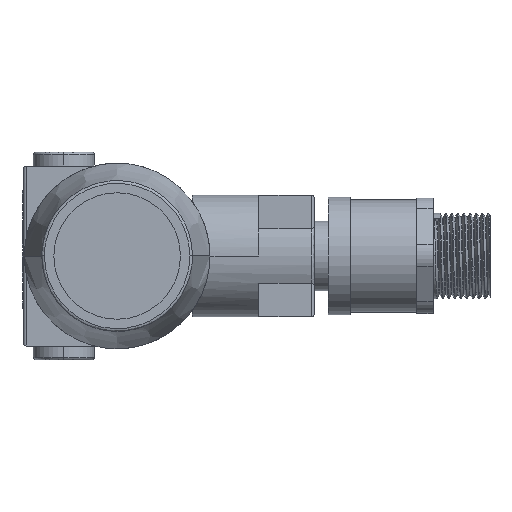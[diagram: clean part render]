
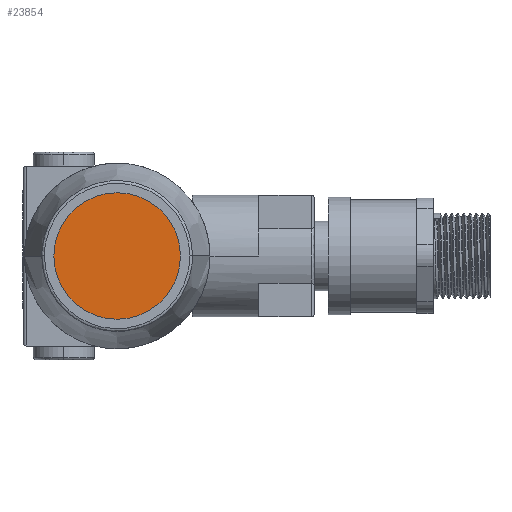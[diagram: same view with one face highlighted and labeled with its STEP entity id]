
A CAD part, left-side view. The second image highlights one B-rep face of the part: STEP entity #23854.
In plain terms, the highlighted planar face has unit normal (-1, 0, 0).
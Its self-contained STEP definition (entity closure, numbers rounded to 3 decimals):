
#8640=CARTESIAN_POINT('',(-69.5,71.141,0.));
#8641=DIRECTION('',(-1.,0.,0.));
#8642=DIRECTION('',(0.,-1.,0.));
#8643=AXIS2_PLACEMENT_3D('',#8640,#8641,#8642);
#8645=CARTESIAN_POINT('',(-69.5,71.141,0.));
#8646=DIRECTION('',(-1.,0.,0.));
#8647=DIRECTION('',(0.,1.,0.));
#8648=AXIS2_PLACEMENT_3D('',#8645,#8646,#8647);
#8895=CARTESIAN_POINT('',(-69.5,48.295,0.));
#8896=CARTESIAN_POINT('',(-69.5,93.987,0.));
#8897=VERTEX_POINT('',#8895);
#8898=VERTEX_POINT('',#8896);
#23845=CARTESIAN_POINT('',(-69.5,0.,0.));
#23846=DIRECTION('',(-1.,0.,0.));
#23847=DIRECTION('',(0.,-1.,0.));
#23848=AXIS2_PLACEMENT_3D('',#23845,#23846,#23847);
#23849=PLANE('',#23848);
#23850=ORIENTED_EDGE('',*,*,#23825,.F.);
#23851=ORIENTED_EDGE('',*,*,#23839,.F.);
#23852=EDGE_LOOP('',(#23850,#23851));
#23853=FACE_OUTER_BOUND('',#23852,.F.);
#23854=ADVANCED_FACE('',(#23853),#23849,.T.);
#8644=CIRCLE('',#8643,22.846);
#8649=CIRCLE('',#8648,22.846);
#23825=EDGE_CURVE('',#8897,#8898,#8644,.T.);
#23839=EDGE_CURVE('',#8898,#8897,#8649,.T.);
